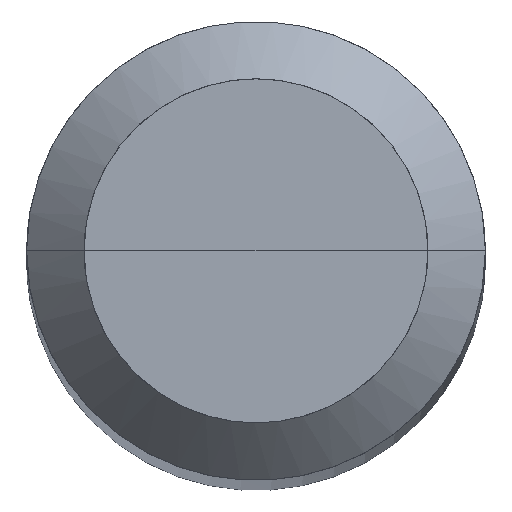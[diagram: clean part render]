
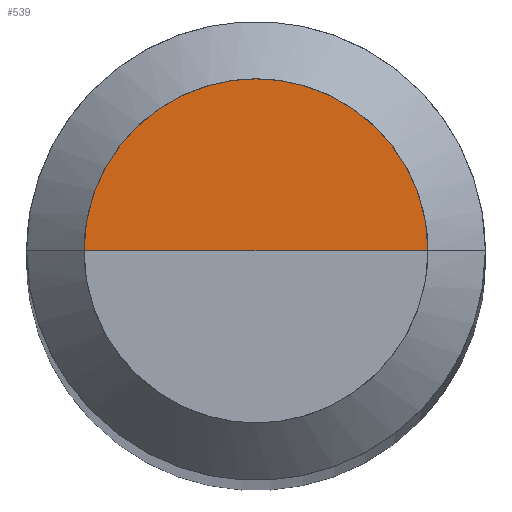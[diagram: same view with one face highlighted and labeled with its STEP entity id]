
A CAD part, top view. The second image highlights one B-rep face of the part: STEP entity #539.
In plain terms, the highlighted free-form (B-spline) face has degree [1, 2] with [2, 5] control points.
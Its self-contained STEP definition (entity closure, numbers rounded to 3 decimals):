
#294=CARTESIAN_POINT('',(1.5,0.0,51.014));
#295=CARTESIAN_POINT('',(1.5,1.5,51.014));
#296=CARTESIAN_POINT('',(0.0,1.5,51.014));
#297=CARTESIAN_POINT('',(-1.5,1.5,51.014));
#298=CARTESIAN_POINT('',(-1.5,0.0,51.014));
#299=CARTESIAN_POINT('',(0.0,0.0,51.014));
#524=(
BOUNDED_SURFACE()
B_SPLINE_SURFACE(1,2,(
(#294,#295,#296,#297,#298),
(#299,#299,#299,#299,#299)
), .UNSPECIFIED.,.F.,.F.,.F.)
B_SPLINE_SURFACE_WITH_KNOTS((2,2),(3,2,3),(
0.0,1.0),(
0.0,0.5,1.0), .UNSPECIFIED.)
GEOMETRIC_REPRESENTATION_ITEM()
RATIONAL_B_SPLINE_SURFACE(((1.0,0.707,1.0,0.707,1.0),
(1.0,0.707,1.0,0.707,1.0)
))
REPRESENTATION_ITEM('')
SURFACE()
);
#525=(
BOUNDED_CURVE()
B_SPLINE_CURVE(2,(#298,#297,#296,#295,#294),.UNSPECIFIED.,.F.,.F.)
B_SPLINE_CURVE_WITH_KNOTS((3,2,3),
(0.0,0.5,1.0),.UNSPECIFIED.)
CURVE()
GEOMETRIC_REPRESENTATION_ITEM()
RATIONAL_B_SPLINE_CURVE((1.0,0.707,1.0,0.707,1.0))
REPRESENTATION_ITEM('')
);
#526=(
BOUNDED_CURVE()
B_SPLINE_CURVE(1,(#294,#299),.UNSPECIFIED.,.F.,.F.)
B_SPLINE_CURVE_WITH_KNOTS((2,2),
(0.0,1.0),.UNSPECIFIED.)
CURVE()
GEOMETRIC_REPRESENTATION_ITEM()
RATIONAL_B_SPLINE_CURVE((1.0,1.0))
REPRESENTATION_ITEM('')
);
#527=(
BOUNDED_CURVE()
B_SPLINE_CURVE(1,(#299,#298),.UNSPECIFIED.,.F.,.F.)
B_SPLINE_CURVE_WITH_KNOTS((2,2),
(0.0,1.0),.UNSPECIFIED.)
CURVE()
GEOMETRIC_REPRESENTATION_ITEM()
RATIONAL_B_SPLINE_CURVE((1.0,1.0))
REPRESENTATION_ITEM('')
);
#528=VERTEX_POINT('',#294);
#529=VERTEX_POINT('',#298);
#530=VERTEX_POINT('',#299);
#531=EDGE_CURVE('',#529,#528,#525,.T.);
#532=EDGE_CURVE('',#528,#530,#526,.T.);
#533=EDGE_CURVE('',#530,#529,#527,.T.);
#534=ORIENTED_EDGE('',*,*,#531,.T.);
#535=ORIENTED_EDGE('',*,*,#532,.T.);
#536=ORIENTED_EDGE('',*,*,#533,.T.);
#537=EDGE_LOOP('',(#534,#535,#536));
#538=FACE_OUTER_BOUND('',#537,.T.);
#539=ADVANCED_FACE('',(#538),#524,.T.);
